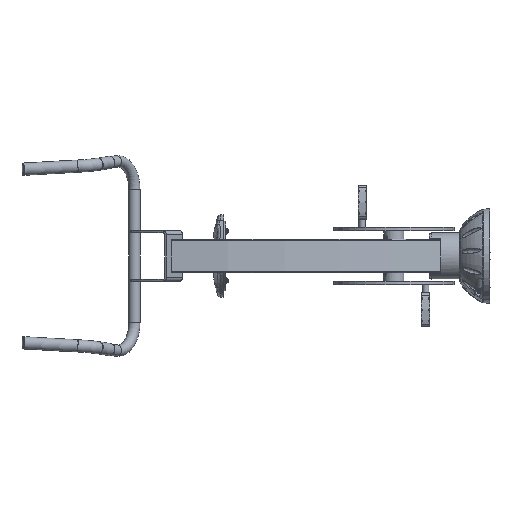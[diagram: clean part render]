
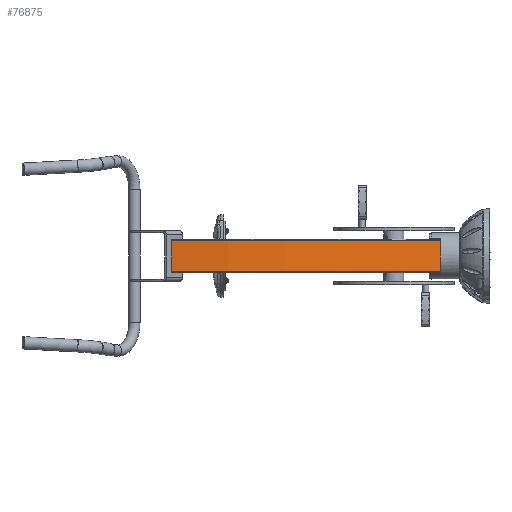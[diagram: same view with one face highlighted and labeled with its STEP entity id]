
A CAD part, left-side view. The second image highlights one B-rep face of the part: STEP entity #76875.
In plain terms, the highlighted cylindrical face has radius 1225 mm (diameter 2450 mm), a partial arc.
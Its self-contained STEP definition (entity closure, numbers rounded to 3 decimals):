
#6421 = VERTEX_POINT ( 'NONE', #127062 ) ;
#9529 = EDGE_LOOP ( 'NONE', ( #12319, #129446, #100105, #113133 ) ) ;
#10157 = CARTESIAN_POINT ( 'NONE',  ( 0., 0., -45. ) ) ;
#12319 = ORIENTED_EDGE ( 'NONE', *, *, #103158, .F. ) ;
#13756 = CARTESIAN_POINT ( 'NONE',  ( -1002.555, -703.924, 45. ) ) ;
#20518 = DIRECTION ( 'NONE',  ( -1., 0., 0. ) ) ;
#21037 = EDGE_CURVE ( 'NONE', #6421, #50746, #92727, .T. ) ;
#26307 = DIRECTION ( 'NONE',  ( 0., 0., -1. ) ) ;
#31921 = CARTESIAN_POINT ( 'NONE',  ( -1002.555, -703.924, 45. ) ) ;
#32627 = AXIS2_PLACEMENT_3D ( 'NONE', #10157, #82291, #20518 ) ;
#36376 = CARTESIAN_POINT ( 'NONE',  ( -1220.912, 100., 45. ) ) ;
#39383 = CYLINDRICAL_SURFACE ( 'NONE', #92850, 1225. ) ;
#50746 = VERTEX_POINT ( 'NONE', #36376 ) ;
#52956 = CARTESIAN_POINT ( 'NONE',  ( -1002.555, -703.924, -45. ) ) ;
#58858 = VECTOR ( 'NONE', #73807, 1000. ) ;
#67451 = EDGE_CURVE ( 'NONE', #94740, #127743, #128500, .T. ) ;
#73722 = VECTOR ( 'NONE', #83750, 1000. ) ;
#73807 = DIRECTION ( 'NONE',  ( 0., 0., 1. ) ) ;
#76875 = ADVANCED_FACE ( 'NONE', ( #124781 ), #39383, .T. ) ;
#82291 = DIRECTION ( 'NONE',  ( 0., 0., -1. ) ) ;
#82419 = EDGE_CURVE ( 'NONE', #127743, #50746, #89380, .T. ) ;
#83750 = DIRECTION ( 'NONE',  ( 0., 0., 1. ) ) ;
#87904 = AXIS2_PLACEMENT_3D ( 'NONE', #88101, #26307, #98450 ) ;
#88101 = CARTESIAN_POINT ( 'NONE',  ( 0., 0., 45. ) ) ;
#89380 = CIRCLE ( 'NONE', #87904, 1225. ) ;
#92727 = LINE ( 'NONE', #94989, #58858 ) ;
#92850 = AXIS2_PLACEMENT_3D ( 'NONE', #122866, #133238, #121523 ) ;
#94740 = VERTEX_POINT ( 'NONE', #52956 ) ;
#94989 = CARTESIAN_POINT ( 'NONE',  ( -1220.912, 100., 45. ) ) ;
#98450 = DIRECTION ( 'NONE',  ( -1., 0., 0. ) ) ;
#100105 = ORIENTED_EDGE ( 'NONE', *, *, #82419, .T. ) ;
#103158 = EDGE_CURVE ( 'NONE', #94740, #6421, #113306, .T. ) ;
#113133 = ORIENTED_EDGE ( 'NONE', *, *, #21037, .F. ) ;
#113306 = CIRCLE ( 'NONE', #32627, 1225. ) ;
#121523 = DIRECTION ( 'NONE',  ( -1., 0., 0. ) ) ;
#122866 = CARTESIAN_POINT ( 'NONE',  ( 0., 0., 0. ) ) ;
#124781 = FACE_OUTER_BOUND ( 'NONE', #9529, .T. ) ;
#127062 = CARTESIAN_POINT ( 'NONE',  ( -1220.912, 100., -45. ) ) ;
#127743 = VERTEX_POINT ( 'NONE', #13756 ) ;
#128500 = LINE ( 'NONE', #31921, #73722 ) ;
#129446 = ORIENTED_EDGE ( 'NONE', *, *, #67451, .T. ) ;
#133238 = DIRECTION ( 'NONE',  ( 0., 0., -1. ) ) ;
